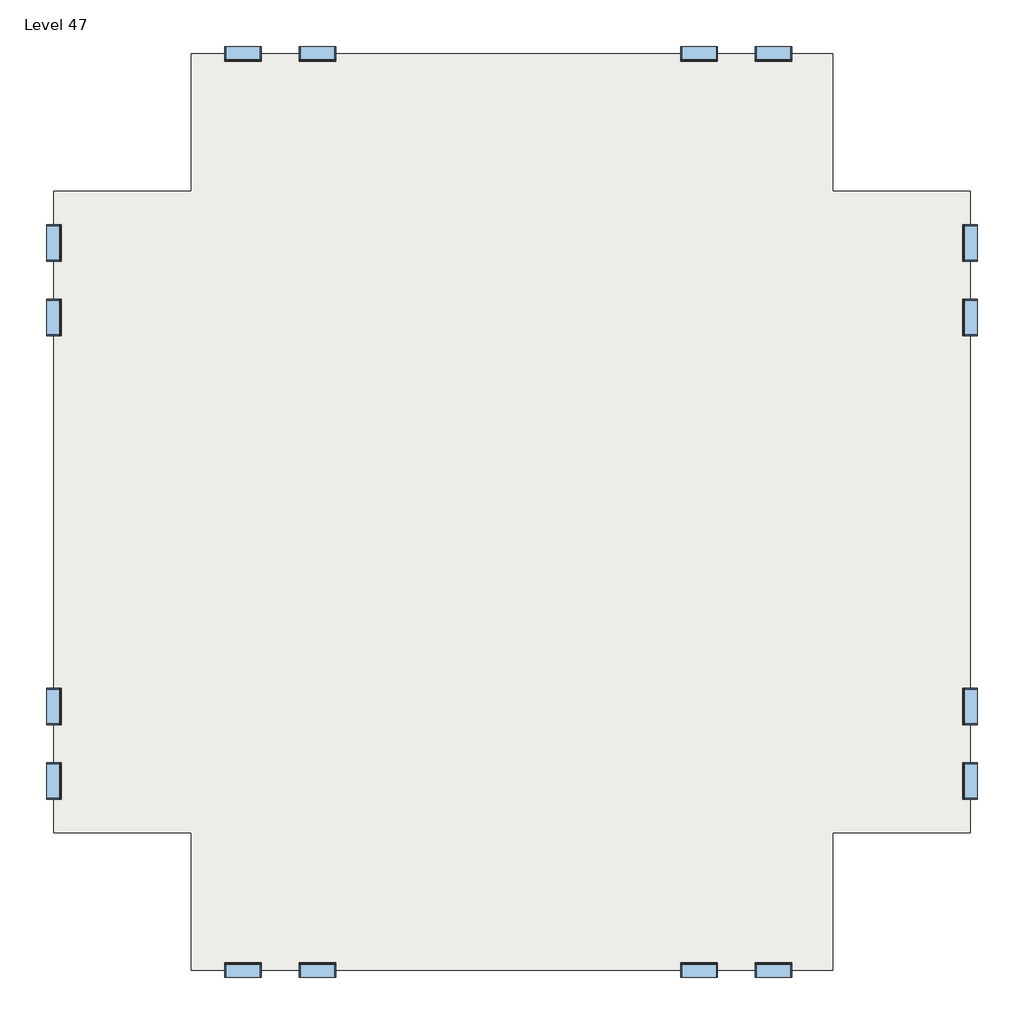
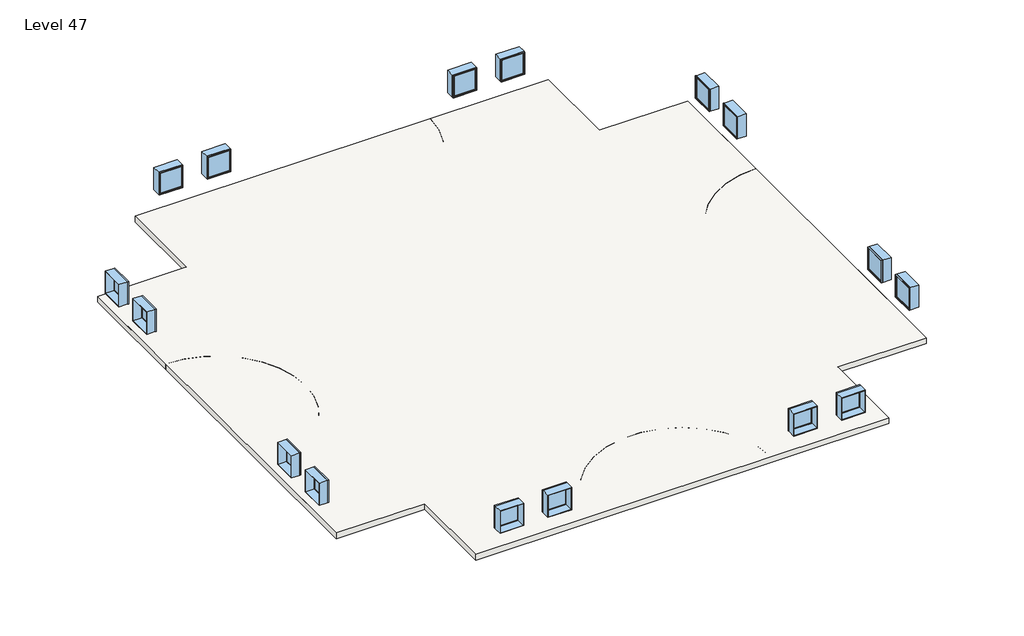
# One storey: 16 windows, 3 slabs.
"""IFC4 building model written with IfcOpenShell, lengths in millimetres."""

from ifc_helpers import new_model, si_unit, point, frame, frame_2d, origin, place, context, project, spatial, polyline, circle_curve, trimmed, segment, composite_curve, outline, extrude, transform, mapped, element, save
from components import window_d0035ecf, window_d434eb62

model = new_model("IFC4")

# Units and contexts
model_context = context("Model", 3, world=origin())
ifc_project = project(units=[si_unit("LENGTHUNIT", "METRE", prefix="MILLI")], contexts=[model_context])

# Site, building, storey
site = spatial("IfcSite", under=ifc_project)
building = spatial("IfcBuilding", under=site)
storey = spatial("IfcBuildingStorey", under=building, Name="Level 47", Elevation=140208.0)

# Slabs
placement = place(None, origin())
element("IfcSlab", 1, ObjectType="Generic - 12\"", at=placement, inside=storey, context=model_context, shape_type="SweptSolid", body=[
    extrude(outline(polyline([(-7150.3629456, 4479.6634547), (-7150.3629456, 9051.6634547), (14185.6370544, 9051.6634547), (14185.6370544, 4479.6634547), (18757.6370544, 4479.6634547), (18757.6370544, -16856.3365453), (14185.6370544, -16856.3365453), (14185.6370544, -21428.3365453), (-7150.3629456, -21428.3365453), (-7150.3629456, -16856.3365453), (-11722.3629456, -16856.3365453), (-11722.3629456, 4479.6634547), (-7150.3629456, 4479.6634547)])), frame((0.0, 0.0, 139903.2), z_axis=(0.0, 0.0, 1.0), x_axis=(1.0, 0.0, 0.0)), (0.0, 0.0, 1.0), 304.8),
])
element("IfcSlab", 2, ObjectType="Generic - 12\"", at=placement, inside=storey, context=model_context, shape_type="SweptSolid", body=[
    extrude(outline(polyline([(-7150.3629456, 4479.6634547), (-7150.3629456, 9051.6634547), (14185.6370544, 9051.6634547), (14185.6370544, 4479.6634547), (18757.6370544, 4479.6634547), (18757.6370544, -16856.3365453), (14185.6370544, -16856.3365453), (14185.6370544, -21428.3365453), (-7150.3629456, -21428.3365453), (-7150.3629456, -16856.3365453), (-11722.3629456, -16856.3365453), (-11722.3629456, 4479.6634547), (-7150.3629456, 4479.6634547)])), frame((0.0, 0.0, 139903.2), z_axis=(0.0, 0.0, 1.0), x_axis=(1.0, 0.0, 0.0)), (0.0, 0.0, 1.0), 304.8),
])
element("IfcSlab", 3, ObjectType="Generic - 12\"", at=placement, inside=storey, context=model_context, shape_type="SweptSolid", body=[
    extrude(outline(composite_curve([segment(polyline([(-7150.3629456, 4479.6634547), (-7150.3629456, 9051.6634547), (-1054.3629456, 9051.6634547)]), True, "CONTINUOUS"), segment(trimmed(circle_curve(frame_2d((3517.6370544, 9051.6634547)), 4572.0), [point((-1054.3629456, 9051.6634547))], [point((8089.6370544, 9051.6634547))], True, "CARTESIAN"), True, "CONTINUOUS"), segment(polyline([(8089.6370544, 9051.6634547), (14185.6370544, 9051.6634547), (14185.6370544, 4479.6634547), (18757.6370544, 4479.6634547), (18757.6370544, -1616.3365453)]), True, "CONTINUOUS"), segment(trimmed(circle_curve(frame_2d((18757.6370544, -6188.3365453)), 4572.0), [point((18757.6370544, -1616.3365453))], [point((18757.6370544, -10760.3365453))], True, "CARTESIAN"), True, "CONTINUOUS"), segment(polyline([(18757.6370544, -10760.3365453), (18757.6370544, -16856.3365453), (14185.6370544, -16856.3365453), (14185.6370544, -21428.3365453), (8089.6370544, -21428.3365453)]), True, "CONTINUOUS"), segment(trimmed(circle_curve(frame_2d((3517.6370544, -21428.3365453)), 4572.0), [point((8089.6370544, -21428.3365453))], [point((-1054.3629456, -21428.3365453))], True, "CARTESIAN"), True, "CONTINUOUS"), segment(polyline([(-1054.3629456, -21428.3365453), (-7150.3629456, -21428.3365453), (-7150.3629456, -16856.3365453), (-11722.3629456, -16856.3365453), (-11722.3629456, -10760.3365453)]), True, "CONTINUOUS"), segment(trimmed(circle_curve(frame_2d((-11722.3629456, -6188.3365453)), 4572.0), [point((-11722.3629456, -10760.3365453))], [point((-11722.3629456, -1616.3365453))], True, "CARTESIAN"), True, "CONTINUOUS"), segment(polyline([(-11722.3629456, -1616.3365453), (-11722.3629456, 4479.6634547), (-7150.3629456, 4479.6634547)]), True, "CONTINUOUS")], self_intersect=False)), frame((0.0, 0.0, 139903.2), z_axis=(0.0, 0.0, 1.0), x_axis=(1.0, 0.0, 0.0)), (0.0, 0.0, 1.0), 304.8),
])

# Windows
window_shape = window_d0035ecf(model_context)
element("IfcWindow", 4, ObjectType="Fixed : 48\" x 48\"", at=placement, inside=storey, context=model_context, shape_type="MappedRepresentation", body=[
    mapped(window_shape, transform((-11719.1879456, 247.3884547, 140208.0), x_axis=(0.0, -1.0, 0.0), y_axis=(1.0, 0.0, 0.0), z_axis=(0.0, 0.0, 1.0))),
])
element("IfcWindow", 5, ObjectType="Fixed : 48\" x 48\"", at=placement, inside=storey, context=model_context, shape_type="MappedRepresentation", body=[
    mapped(window_shape, transform((-5469.1993281, 9048.4884547, 140208.0), x_axis=(-1.0, 0.0, 0.0), y_axis=(0.0, -1.0, 0.0), z_axis=(0.0, 0.0, 1.0))),
])
element("IfcWindow", 6, ObjectType="Fixed : 48\" x 48\"", at=placement, inside=storey, context=model_context, shape_type="MappedRepresentation", body=[
    mapped(window_shape, transform((-11719.1879456, -15175.1729277, 140208.0), x_axis=(0.0, -1.0, 0.0), y_axis=(1.0, 0.0, 0.0), z_axis=(0.0, 0.0, 1.0))),
])
element("IfcWindow", 7, ObjectType="Fixed : 48\" x 48\"", at=placement, inside=storey, context=model_context, shape_type="MappedRepresentation", body=[
    mapped(window_shape, transform((-2918.0879456, -21425.1615453, 140208.0), x_axis=(1.0, 0.0, 0.0), y_axis=(0.0, 1.0, 0.0), z_axis=(0.0, 0.0, 1.0))),
])
element("IfcWindow", 8, ObjectType="Fixed : 48\" x 48\"", at=placement, inside=storey, context=model_context, shape_type="MappedRepresentation", body=[
    mapped(window_shape, transform((18754.4620544, 2798.4998372, 140208.0), x_axis=(0.0, 1.0, 0.0), y_axis=(-1.0, 0.0, 0.0), z_axis=(0.0, 0.0, 1.0))),
])
element("IfcWindow", 9, ObjectType="Fixed : 48\" x 48\"", at=placement, inside=storey, context=model_context, shape_type="MappedRepresentation", body=[
    mapped(window_shape, transform((9705.7120544, 9048.4884547, 140208.0), x_axis=(-1.0, 0.0, 0.0), y_axis=(0.0, -1.0, 0.0), z_axis=(0.0, 0.0, 1.0))),
])
element("IfcWindow", 10, ObjectType="Fixed : 48\" x 48\"", at=placement, inside=storey, context=model_context, shape_type="MappedRepresentation", body=[
    mapped(window_shape, transform((18754.4620544, -12624.0615453, 140208.0), x_axis=(0.0, 1.0, 0.0), y_axis=(-1.0, 0.0, 0.0), z_axis=(0.0, 0.0, 1.0))),
])
element("IfcWindow", 11, ObjectType="Fixed : 48\" x 48\"", at=placement, inside=storey, context=model_context, shape_type="MappedRepresentation", body=[
    mapped(window_shape, transform((12256.8234368, -21425.1615453, 140208.0), x_axis=(1.0, 0.0, 0.0), y_axis=(0.0, 1.0, 0.0), z_axis=(0.0, 0.0, 1.0))),
])
window_2_shape = window_d434eb62(model_context)
element("IfcWindow", 12, ObjectType="Fixed : 48\" x 48\"", at=placement, inside=storey, context=model_context, shape_type="MappedRepresentation", body=[
    mapped(window_2_shape, transform((-11719.1879456, 2798.4998372, 140208.0), x_axis=(0.0, 1.0, 0.0), y_axis=(-1.0, 0.0, 0.0), z_axis=(0.0, 0.0, 1.0))),
])
element("IfcWindow", 13, ObjectType="Fixed : 48\" x 48\"", at=placement, inside=storey, context=model_context, shape_type="MappedRepresentation", body=[
    mapped(window_2_shape, transform((-2918.0879456, 9048.4884547, 140208.0), x_axis=(1.0, 0.0, 0.0), y_axis=(0.0, 1.0, 0.0), z_axis=(0.0, 0.0, 1.0))),
])
element("IfcWindow", 14, ObjectType="Fixed : 48\" x 48\"", at=placement, inside=storey, context=model_context, shape_type="MappedRepresentation", body=[
    mapped(window_2_shape, transform((-11719.1879456, -12624.0615453, 140208.0), x_axis=(0.0, 1.0, 0.0), y_axis=(-1.0, 0.0, 0.0), z_axis=(0.0, 0.0, 1.0))),
])
element("IfcWindow", 15, ObjectType="Fixed : 48\" x 48\"", at=placement, inside=storey, context=model_context, shape_type="MappedRepresentation", body=[
    mapped(window_2_shape, transform((-5469.1993281, -21425.1615453, 140208.0), x_axis=(-1.0, 0.0, 0.0), y_axis=(0.0, -1.0, 0.0), z_axis=(0.0, 0.0, 1.0))),
])
element("IfcWindow", 16, ObjectType="Fixed : 48\" x 48\"", at=placement, inside=storey, context=model_context, shape_type="MappedRepresentation", body=[
    mapped(window_2_shape, transform((18754.4620544, 247.3884547, 140208.0), x_axis=(0.0, -1.0, 0.0), y_axis=(1.0, 0.0, 0.0), z_axis=(0.0, 0.0, 1.0))),
])
element("IfcWindow", 17, ObjectType="Fixed : 48\" x 48\"", at=placement, inside=storey, context=model_context, shape_type="MappedRepresentation", body=[
    mapped(window_2_shape, transform((12256.8234368, 9048.4884547, 140208.0), x_axis=(1.0, 0.0, 0.0), y_axis=(0.0, 1.0, 0.0), z_axis=(0.0, 0.0, 1.0))),
])
element("IfcWindow", 18, ObjectType="Fixed : 48\" x 48\"", at=placement, inside=storey, context=model_context, shape_type="MappedRepresentation", body=[
    mapped(window_2_shape, transform((18754.4620544, -15175.1729277, 140208.0), x_axis=(0.0, -1.0, 0.0), y_axis=(1.0, 0.0, 0.0), z_axis=(0.0, 0.0, 1.0))),
])
element("IfcWindow", 19, ObjectType="Fixed : 48\" x 48\"", at=placement, inside=storey, context=model_context, shape_type="MappedRepresentation", body=[
    mapped(window_2_shape, transform((9705.7120544, -21425.1615453, 140208.0), x_axis=(-1.0, 0.0, 0.0), y_axis=(0.0, -1.0, 0.0), z_axis=(0.0, 0.0, 1.0))),
])

save(model, "model.ifc")
